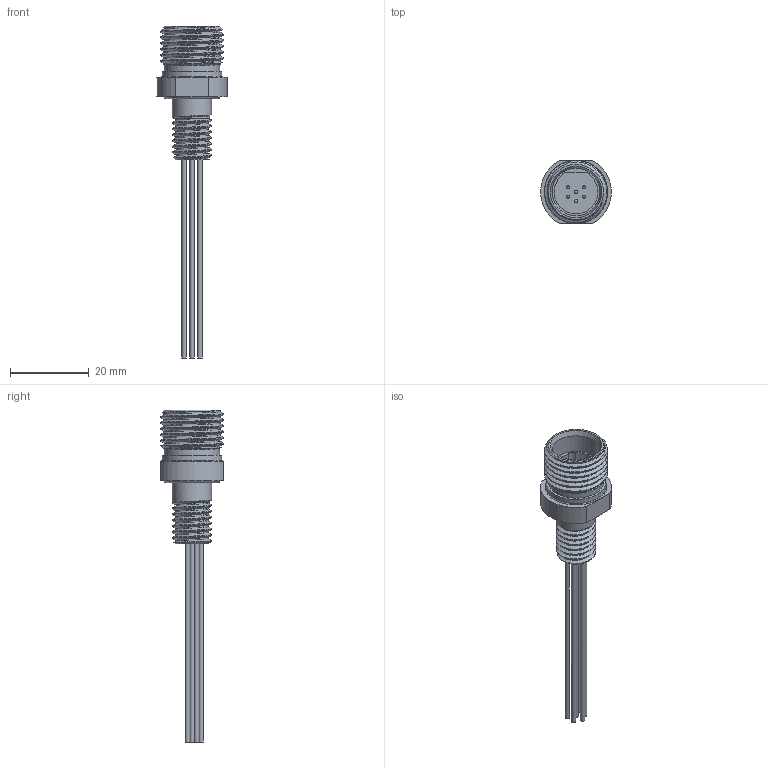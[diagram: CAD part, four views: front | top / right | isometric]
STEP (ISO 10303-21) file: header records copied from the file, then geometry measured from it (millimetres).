
FILE_DESCRIPTION (( 'STEP AP203' ), '1' );
FILE_NAME ('COB-1160.STEP', '2020-01-14T21:12:47', ( '' ), ( '' ), 'SwSTEP 2.0', 'SolidWorks 2020', '' );
FILE_SCHEMA (( 'CONFIG_CONTROL_DESIGN' ));
Length unit declared in the file: millimetre
Products named in the file (1): COB-1160
Bounding box: 17.94 x 16 x 84.25 mm (x, y, z)
Volume: 3344 mm3; surface area: 4254.2 mm2
Topology: 2 solids, 2 shells, 70 faces, 173 edges, 112 vertices
Faces by surface type: cylinder 32, plane 19, bspline 6, sphere 6, cone 5, torus 2
Full cylindrical faces by diameter (mm): 0.762 x6, 1.143 x6, 9.95 x7, 10.7 x1, 12.1 x1, 14 x1, 15.1 x1, 15.2 x1
Entity records: 5650 total; most frequent: CARTESIAN_POINT 4435, DIRECTION 236, ORIENTED_EDGE 190, AXIS2_PLACEMENT_3D 111, EDGE_LOOP 103, EDGE_CURVE 95, FACE_OUTER_BOUND 81, VERTEX_POINT 76
